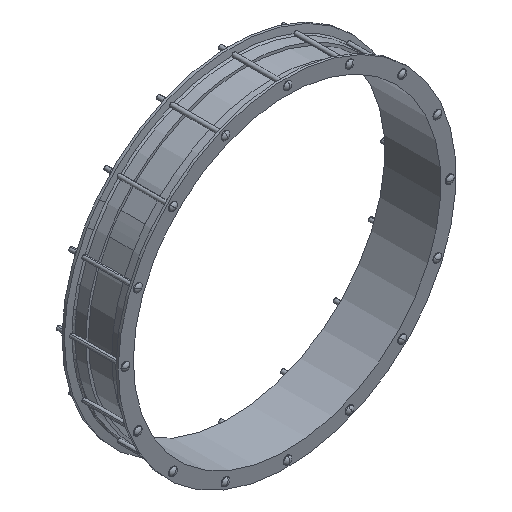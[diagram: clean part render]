
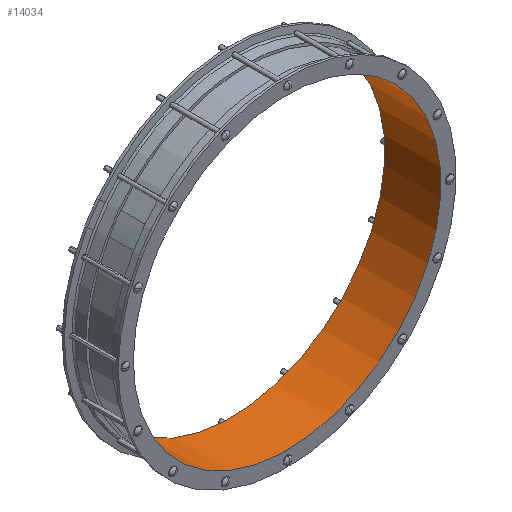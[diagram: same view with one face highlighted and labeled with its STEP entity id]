
A CAD part, isometric view. The second image highlights one B-rep face of the part: STEP entity #14034.
In plain terms, the highlighted cylindrical face has radius 612.75 mm (diameter 1225.5 mm), a partial arc.
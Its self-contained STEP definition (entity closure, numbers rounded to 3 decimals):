
#399=CARTESIAN_POINT('',(0.,112.,0.));
#400=DIRECTION('',(0.,1.,0.));
#401=DIRECTION('',(-0.793,0.,0.609));
#402=AXIS2_PLACEMENT_3D('',#399,#400,#401);
#7054=DIRECTION('',(0.,1.,0.));
#7055=VECTOR('',#7054,224.);
#7056=CARTESIAN_POINT('',(-530.657,-112.,306.375));
#7057=LINE('',#7056,#7055);
#7058=DIRECTION('',(0.,1.,0.));
#7059=VECTOR('',#7058,224.);
#7060=CARTESIAN_POINT('',(-486.127,-112.,373.019));
#7061=LINE('',#7060,#7059);
#7062=CARTESIAN_POINT('',(0.,-112.,0.));
#7063=DIRECTION('',(0.,1.,0.));
#7064=DIRECTION('',(-0.793,0.,0.609));
#7065=AXIS2_PLACEMENT_3D('',#7062,#7063,#7064);
#8591=CARTESIAN_POINT('',(-530.657,-112.,306.375));
#8592=CARTESIAN_POINT('',(-530.657,112.,306.375));
#8593=VERTEX_POINT('',#8591);
#8594=VERTEX_POINT('',#8592);
#8637=CARTESIAN_POINT('',(-486.127,-112.,373.019));
#8638=CARTESIAN_POINT('',(-486.127,112.,373.019));
#8639=VERTEX_POINT('',#8637);
#8640=VERTEX_POINT('',#8638);
#14021=CARTESIAN_POINT('',(0.,-123.2,0.));
#14022=DIRECTION('',(0.,1.,0.));
#14023=DIRECTION('',(0.866,0.,0.5));
#14024=AXIS2_PLACEMENT_3D('',#14021,#14022,#14023);
#14025=CYLINDRICAL_SURFACE('',#14024,612.75);
#14027=ORIENTED_EDGE('',*,*,#14026,.T.);
#14028=ORIENTED_EDGE('',*,*,#9007,.F.);
#14030=ORIENTED_EDGE('',*,*,#14029,.F.);
#14031=ORIENTED_EDGE('',*,*,#14002,.T.);
#14032=EDGE_LOOP('',(#14027,#14028,#14030,#14031));
#14033=FACE_OUTER_BOUND('',#14032,.F.);
#14034=ADVANCED_FACE('',(#14033),#14025,.F.);
#403=CIRCLE('',#402,612.75);
#7066=CIRCLE('',#7065,612.75);
#9007=EDGE_CURVE('',#8640,#8594,#403,.T.);
#14002=EDGE_CURVE('',#8639,#8593,#7066,.T.);
#14026=EDGE_CURVE('',#8593,#8594,#7057,.T.);
#14029=EDGE_CURVE('',#8639,#8640,#7061,.T.);
